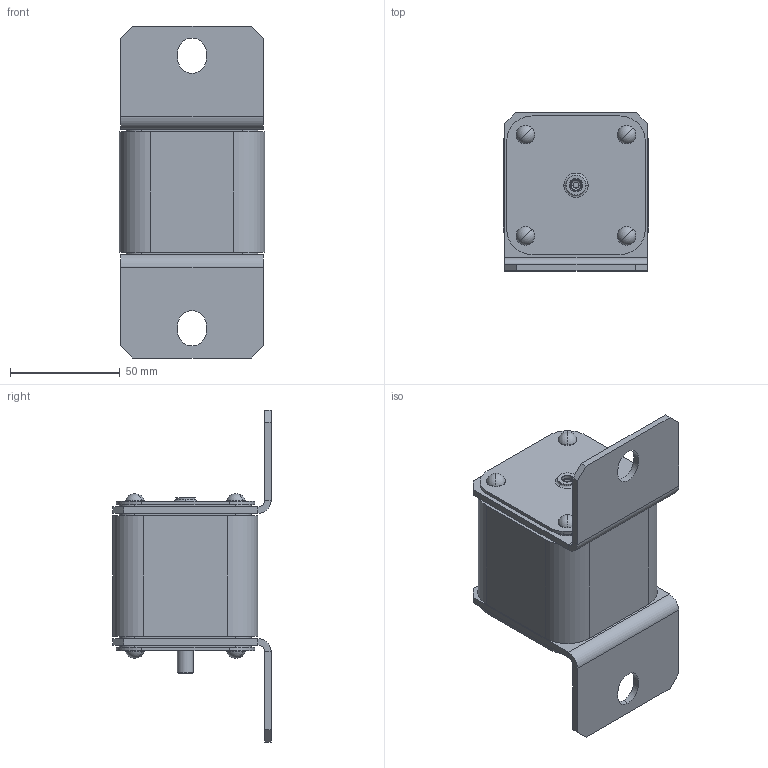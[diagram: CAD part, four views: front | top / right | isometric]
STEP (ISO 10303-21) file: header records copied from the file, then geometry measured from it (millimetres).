
FILE_DESCRIPTION (( 'STEP AP214' ), '1' );
FILE_NAME ('ﾏﾏ60ﾑ-37,38,39,40ﾓ1-XXXX-XXXX-ﾊﾝﾀﾇ.STEP', '2023-04-28T13:19:18', ( '' ), ( '' ), 'SwSTEP 2.0', 'SolidWorks 2018', '' );
FILE_SCHEMA (( 'AUTOMOTIVE_DESIGN' ));
Length unit declared in the file: millimetre
Products named in the file (1): ﾏﾏ60ﾑ-37,38,39,40ﾓ1-XXXX-XXXX-ﾊﾝﾀﾇ
Bounding box: 66 x 72 x 151 mm (x, y, z)
Volume: 287850.4 mm3; surface area: 53771.7 mm2
Topology: 1 solids, 10 shells, 350 faces, 776 edges, 486 vertices
Faces by surface type: plane 172, cylinder 126, torus 28, sphere 16, cone 8
Entity records: 13596 total; most frequent: DIRECTION 1872, CARTESIAN_POINT 1613, ORIENTED_EDGE 1552, EDGE_CURVE 776, AXIS2_PLACEMENT_3D 745, VERTEX_POINT 486, CIRCLE 394, EDGE_LOOP 394
